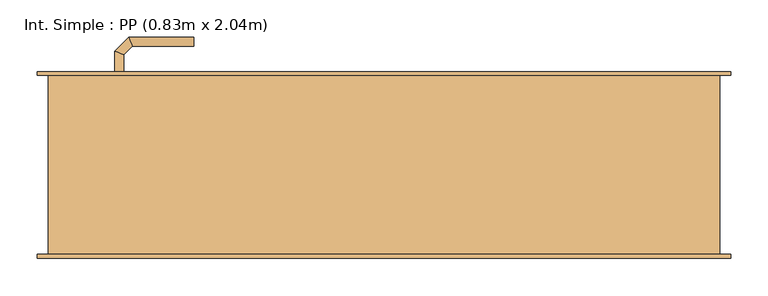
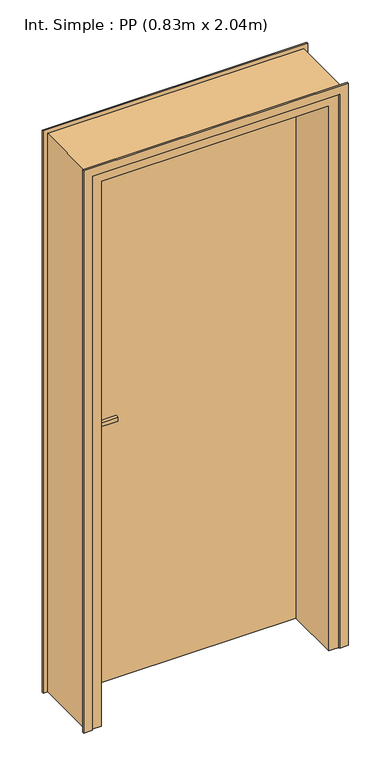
"""IFC4 building model written with IfcOpenShell, lengths in millimetres: door geometry, Int. Simple : PP (0.83m x 2.04m)."""

import ifcopenshell
import ifcopenshell.guid

model = None  # the IFC model being written
_history = None  # IfcOwnerHistory: only IFC2X3 demands one
_inside = {}  # id of a spatial element -> (the spatial element, [elements in it])
_under = {}  # id of a project, library or spatial element -> (it, [spatial elements below it])
_declared = {}  # id of a project -> (the project, [libraries it declares])
_typed = {}  # id of a type object -> (the type object, [elements of that type])
_made_of = {}  # id of a material, layer set ... -> (it, [elements and type objects made of it])


def new_model(schema):
    """Start an empty IFC model of exactly this schema.

    Asked for "IFC4X3", IfcOpenShell would pick the latest addendum, in which some entities
    have other attributes; the version numbers below select the first issue.
    IFC2X3 requires an IfcOwnerHistory on every rooted entity: one is made here for all.
    """
    global model, _history
    if schema == "IFC4X3":
        model = ifcopenshell.file(schema_version=(4, 3, 0, 0))
    else:
        model = ifcopenshell.file(schema=schema)
    _inside.clear()
    _under.clear()
    _declared.clear()
    _typed.clear()
    _made_of.clear()
    _history = None
    if model.schema == "IFC2X3":
        org = make("IfcOrganization", Name="unknown")
        user = make(
            "IfcPersonAndOrganization",
            ThePerson=make("IfcPerson", FamilyName="unknown"),
            TheOrganization=org,
        )
        app = make(
            "IfcApplication",
            ApplicationDeveloper=org,
            Version="unknown",
            ApplicationFullName="unknown",
            ApplicationIdentifier="unknown",
        )
        _history = make(
            "IfcOwnerHistory",
            OwningUser=user,
            OwningApplication=app,
            ChangeAction="ADDED",
            CreationDate=0,
        )
    return model


def make(cls, **values):
    """One entity of the class cls with the attributes given. An attribute that is None is left unset."""
    return model.create_entity(
        cls, **{name: value for name, value in values.items() if value is not None}
    )


def rooted(cls, **values):
    """An entity with a GlobalId (a new one), such as an element, a storey or a relation."""
    return make(cls, GlobalId=ifcopenshell.guid.new(), OwnerHistory=_history, **values)


def si_unit(unit_type, name, prefix=None):
    """IfcSIUnit, for example si_unit("LENGTHUNIT", "METRE", prefix="MILLI")."""
    return make("IfcSIUnit", UnitType=unit_type, Prefix=prefix, Name=name)


def assignment(units):
    """IfcUnitAssignment: the units of a project."""
    return None if units is None else make("IfcUnitAssignment", Units=units)


def point(xyz):
    """IfcCartesianPoint."""
    return None if xyz is None else make("IfcCartesianPoint", Coordinates=xyz)


def direction(xyz):
    """IfcDirection."""
    return None if xyz is None else make("IfcDirection", DirectionRatios=xyz)


def frame(location, z_axis=None, x_axis=None):
    """IfcAxis2Placement3D, a coordinate frame: its origin and axes. An axis left out is left unset."""
    return make(
        "IfcAxis2Placement3D",
        Location=point(location),
        Axis=direction(z_axis),
        RefDirection=direction(x_axis),
    )


def frame_2d(location, x_axis=None):
    """IfcAxis2Placement2D, a coordinate frame in the plane: its origin and x axis."""
    return make(
        "IfcAxis2Placement2D", Location=point(location), RefDirection=direction(x_axis)
    )


def origin():
    """The frame at (0, 0, 0) with its axes left unset."""
    return frame((0.0, 0.0, 0.0))


def origin_with_axes():
    """The frame at (0, 0, 0) with the z axis (0, 0, 1) and the x axis (1, 0, 0) written out."""
    return frame((0.0, 0.0, 0.0), z_axis=(0.0, 0.0, 1.0), x_axis=(1.0, 0.0, 0.0))


def place(relative_to, where):
    """IfcLocalPlacement: puts the frame where relative to a parent placement (None: the world)."""
    return make(
        "IfcLocalPlacement", PlacementRelTo=relative_to, RelativePlacement=where
    )


def context(
    kind, dimensions, precision=None, world=None, true_north=None, identifier=None
):
    """IfcGeometricRepresentationContext, for example the 3D "Model" context."""
    return make(
        "IfcGeometricRepresentationContext",
        ContextIdentifier=identifier,
        ContextType=kind,
        CoordinateSpaceDimension=dimensions,
        Precision=precision,
        WorldCoordinateSystem=world,
        TrueNorth=true_north,
    )


def project(units=None, contexts=None):
    """IfcProject with its units and contexts."""
    return rooted(
        "IfcProject",
        Name="project",
        RepresentationContexts=contexts,
        UnitsInContext=assignment(units),
    )


def spatial(cls, under=None, at=None, **own):
    """A site, building, storey or space (cls), placed at a placement, below another one or the project."""
    s = rooted(cls, ObjectPlacement=at, **own)
    if under is not None:
        _under.setdefault(under.id(), (under, []))[1].append(s)
    return s


def polyline(points):
    """IfcPolyline through the points."""
    return make("IfcPolyline", Points=[point(p) for p in points])


def circle_curve(where, radius):
    """IfcCircle in the frame where."""
    return make("IfcCircle", Position=where, Radius=radius)


def ellipse_curve(where, semi_axis1, semi_axis2):
    """IfcEllipse in the frame where."""
    return make(
        "IfcEllipse", Position=where, SemiAxis1=semi_axis1, SemiAxis2=semi_axis2
    )


def trimmed(basis, trim1, trim2, sense, master):
    """IfcTrimmedCurve: the piece of a basis curve between two trims."""
    return make(
        "IfcTrimmedCurve",
        BasisCurve=basis,
        Trim1=trim1,
        Trim2=trim2,
        SenseAgreement=sense,
        MasterRepresentation=master,
    )


def segment(curve, same_sense, transition):
    """IfcCompositeCurveSegment."""
    return make(
        "IfcCompositeCurveSegment",
        Transition=transition,
        SameSense=same_sense,
        ParentCurve=curve,
    )


def composite_curve(segments, self_intersect=None):
    """IfcCompositeCurve: segments joined end to end."""
    return make("IfcCompositeCurve", Segments=segments, SelfIntersect=self_intersect)


def outline(outer, holes=None, kind="AREA"):
    """IfcArbitraryClosedProfileDef: a profile drawn as a closed curve; with holes, ...WithVoids."""
    if holes is None:
        return make("IfcArbitraryClosedProfileDef", ProfileType=kind, OuterCurve=outer)
    return make(
        "IfcArbitraryProfileDefWithVoids",
        ProfileType=kind,
        OuterCurve=outer,
        InnerCurves=holes,
    )


def extrude(swept, where, along, depth):
    """IfcExtrudedAreaSolid: the profile swept, set in the frame where, extruded along a direction by depth."""
    return make(
        "IfcExtrudedAreaSolid",
        SweptArea=swept,
        Position=where,
        ExtrudedDirection=direction(along),
        Depth=depth,
    )


def faces_of(points, faces, orient=None, outer=None):
    """IfcFace entities. A face is a list of loops; a loop is a list of indices into points, from 0.

    orient and outer hold one flag for each loop. By default every Orientation is true, the
    first loop of a face is its IfcFaceOuterBound and the others are IfcFaceBound.
    """
    made = []
    for i, loops in enumerate(faces):
        bounds = []
        for j, loop in enumerate(loops):
            is_outer = j == 0 if outer is None else outer[i][j]
            bounds.append(
                make(
                    "IfcFaceOuterBound" if is_outer else "IfcFaceBound",
                    Bound=make("IfcPolyLoop", Polygon=[points[k] for k in loop]),
                    Orientation=True if orient is None else orient[i][j],
                )
            )
        made.append(make("IfcFace", Bounds=bounds))
    return made


def faceted_brep(points, faces, orient=None, outer=None, voids=None):
    """IfcFacetedBrep: a solid bounded by flat faces; with voids (closed shells), ...WithVoids."""
    shared = [point(p) for p in points]
    hull = make("IfcClosedShell", CfsFaces=faces_of(shared, faces, orient, outer))
    if voids is None:
        return make("IfcFacetedBrep", Outer=hull)
    return make(
        "IfcFacetedBrepWithVoids",
        Outer=hull,
        Voids=[
            make(cls, CfsFaces=faces_of(shared, fs, o, b)) for cls, fs, o, b in voids
        ],
    )


def shape(context_of_items, identifier, shape_type, items):
    """IfcShapeRepresentation: the items that make up one representation, for example the "Body"."""
    return make(
        "IfcShapeRepresentation",
        ContextOfItems=context_of_items,
        RepresentationIdentifier=identifier,
        RepresentationType=shape_type,
        Items=items,
    )


def source(mapping_origin, context_of_items, identifier, shape_type, items):
    """IfcRepresentationMap: a shape defined once, which mapped items show again and again."""
    return make(
        "IfcRepresentationMap",
        MappingOrigin=mapping_origin,
        MappedRepresentation=shape(context_of_items, identifier, shape_type, items),
    )


def transform(
    local_origin,
    x_axis=None,
    y_axis=None,
    z_axis=None,
    scale=None,
    scale2=None,
    scale3=None,
    uniform=True,
):
    """IfcCartesianTransformationOperator3D, or its non-uniform kind. x_axis, y_axis, z_axis: its Axis1, 2, 3."""
    if uniform:
        return make(
            "IfcCartesianTransformationOperator3D",
            Axis1=direction(x_axis),
            Axis2=direction(y_axis),
            LocalOrigin=point(local_origin),
            Scale=scale,
            Axis3=direction(z_axis),
        )
    return make(
        "IfcCartesianTransformationOperator3DnonUniform",
        Axis1=direction(x_axis),
        Axis2=direction(y_axis),
        LocalOrigin=point(local_origin),
        Scale=scale,
        Axis3=direction(z_axis),
        Scale2=scale2,
        Scale3=scale3,
    )


def mapped(mapping_source, mapping_target):
    """IfcMappedItem: shows the shape of a source again, moved by a transform."""
    return make(
        "IfcMappedItem", MappingSource=mapping_source, MappingTarget=mapping_target
    )


def made_of(thing, what):
    """Note that an element or type object is made of a material, layer set ...; save() writes the relation."""
    if what is not None:
        _made_of.setdefault(what.id(), (what, []))[1].append(thing)
    return thing


def element(
    cls,
    number,
    at=None,
    inside=None,
    cuts=None,
    type_object=None,
    material=None,
    context=None,
    identifier="Body",
    shape_type=None,
    held_by="IfcProductDefinitionShape",
    body=None,
    shapes=None,
    **own,
):
    """One element of the class cls, such as IfcWall. Its Tag is "e" and its number.

    at: its placement. inside: the storey or other place that contains it. cuts: it is an
    opening in that element (IfcRelVoidsElement). A single representation is given by context,
    identifier, shape_type and body (its items); several are given by shapes. held_by: the class
    of the entity that holds the representations. save() writes the other relations.
    """
    e = rooted(cls, Tag="e%d" % number, ObjectPlacement=at, **own)
    if body is not None:
        shapes = [shape(context, identifier, shape_type, body)]
    if shapes is not None:
        e.Representation = make(held_by, Representations=shapes)
    if inside is not None:
        _inside.setdefault(inside.id(), (inside, []))[1].append(e)
    if cuts is not None:
        rooted(
            "IfcRelVoidsElement", RelatingBuildingElement=cuts, RelatedOpeningElement=e
        )
    if type_object is not None:
        _typed.setdefault(type_object.id(), (type_object, []))[1].append(e)
    return made_of(e, material)


def aggregate(whole, parts):
    """IfcRelAggregates: a whole, such as a stair, and the parts it consists of."""
    return rooted("IfcRelAggregates", RelatingObject=whole, RelatedObjects=parts)


def save(model, path):
    """Write the relations noted so far, then the file.

    IfcRelAggregates (storeys below a building ...), IfcRelContainedInSpatialStructure (elements
    in a storey), IfcRelDefinesByType, IfcRelAssociatesMaterial and IfcRelDeclares: one each for
    every whole, place, type object, material and project.
    """
    for whole, parts in _under.values():
        aggregate(whole, parts)
    for where, things in _inside.values():
        rooted(
            "IfcRelContainedInSpatialStructure",
            RelatedElements=things,
            RelatingStructure=where,
        )
    for kind, things in _typed.values():
        rooted("IfcRelDefinesByType", RelatedObjects=things, RelatingType=kind)
    for what, things in _made_of.values():
        rooted("IfcRelAssociatesMaterial", RelatedObjects=things, RelatingMaterial=what)
    for by, libraries in _declared.values():
        rooted("IfcRelDeclares", RelatingContext=by, RelatedDefinitions=libraries)
    model.write(path)


def plane_surface(at):
    """IfcPlane: the flat surface through the origin of the frame at, square to its z axis."""
    return make("IfcPlane", Position=at)


def cylinder_surface(at, radius):
    """IfcCylindricalSurface: all points at the distance radius from the z axis of the frame at."""
    return make("IfcCylindricalSurface", Position=at, Radius=radius)


def advanced_brep(points, edges, surfaces, faces):
    """IfcAdvancedBrep: a solid bounded by faces that lie on surfaces and meet in shared edges.

    An edge is (start, end): straight between two places in points (the first is 0);
    or (start, end, curve); or (start, end, curve, False) where it runs against its curve.
    A face is (place in surfaces, loops), or (place, loops, False) where it looks against
    its surface's normal. A loop lists edges by number (the first is 1), with a minus sign
    where the edge is run from its end to its start. The first loop is the outer one.
    """
    corners = [point(p) for p in points]
    vertices = [make("IfcVertexPoint", VertexGeometry=c) for c in corners]
    made = []
    for start, end, *more in edges:
        made.append(
            make(
                "IfcEdgeCurve",
                EdgeStart=vertices[start],
                EdgeEnd=vertices[end],
                EdgeGeometry=more[0] if more else make("IfcPolyline", Points=[corners[start], corners[end]]),
                SameSense=more[1] if len(more) > 1 else True,
            )
        )
    hull = []
    for where, loops, *sense in faces:
        bounds = []
        for j, loop in enumerate(loops):
            ring = [make("IfcOrientedEdge", EdgeElement=made[abs(k) - 1], Orientation=k > 0) for k in loop]
            bounds.append(
                make(
                    "IfcFaceOuterBound" if j == 0 else "IfcFaceBound",
                    Bound=make("IfcEdgeLoop", EdgeList=ring),
                    Orientation=True,
                )
            )
        hull.append(make("IfcAdvancedFace", Bounds=bounds, FaceSurface=surfaces[where], SameSense=sense[0] if sense else True))
    return make("IfcAdvancedBrep", Outer=make("IfcClosedShell", CfsFaces=hull))


def int_simple_pp_0_83m_x_2_04m_8f699385(model_context):
    return source(origin(), model_context, "Body", "SolidModel", [
        extrude(outline(composite_curve([segment(trimmed(circle_curve(frame_2d((904.6410162, -390.0)), 40.0), [point((870.0, -410.0))], [point((870.0, -370.0))], False, "CARTESIAN"), True, "CONTINUOUS"), segment(polyline([(870.0, -370.0), (1080.0, -370.0)]), True, "CONTINUOUS"), segment(trimmed(circle_curve(frame_2d((1045.3589838, -390.0)), 40.0), [point((1080.0, -370.0))], [point((1080.0, -410.0))], False, "CARTESIAN"), True, "CONTINUOUS"), segment(polyline([(1080.0, -410.0), (870.0, -410.0)]), True, "CONTINUOUS")], self_intersect=False)), frame((0.0, 120.0, 0.0), z_axis=(0.0, 1.0, 0.0), x_axis=(0.0, 0.0, 1.0)), (0.0, 0.0, 1.0), 5.0),
        extrude(outline(composite_curve([segment(trimmed(circle_curve(frame_2d((1045.3589838, -390.0)), 40.0), [point((1080.0, -370.0))], [point((1080.0, -410.0))], False, "CARTESIAN"), True, "CONTINUOUS"), segment(polyline([(1080.0, -410.0), (870.0, -410.0)]), True, "CONTINUOUS"), segment(trimmed(circle_curve(frame_2d((904.6410162, -390.0)), 40.0), [point((870.0, -410.0))], [point((870.0, -370.0))], False, "CARTESIAN"), True, "CONTINUOUS"), segment(polyline([(870.0, -370.0), (1080.0, -370.0)]), True, "CONTINUOUS")], self_intersect=False)), frame((0.0, 75.0, 0.0), z_axis=(0.0, 1.0, 0.0), x_axis=(0.0, 0.0, 1.0)), (0.0, 0.0, 1.0), 5.0),
        advanced_brep(
        [(-396.0, 125.0, 1007.0), (-396.0, 125.0, 993.0), (-384.0, 125.0, 993.0), (-384.0, 125.0, 1007.0), (-384.0, 147.680388, 1007.0), (-396.0, 152.6509507, 1007.0), (-384.0, 147.680388, 993.0), (-396.0, 152.6509507, 993.0), (-372.6522273, 159.0281607, 1007.0), (-377.62279, 171.0281607, 1007.0), (-372.6522273, 159.0281607, 993.0), (-377.62279, 171.0281607, 993.0), (-289.9813594, 171.0281607, 1007.0), (-289.9813594, 159.0281607, 1007.0), (-289.9813594, 159.0281607, 993.0), (-289.9813594, 171.0281607, 993.0)],
        [
            (0, 1),
            (1, 2, circle_curve(frame((-390.0, 125.0, 1013.0457722), z_axis=(0.0, -1.0, 0.0), x_axis=(1.0, 0.0, 0.0)), 20.9244589)),
            (2, 3),
            (3, 0, circle_curve(frame((-390.0, 125.0, 986.9542278), z_axis=(0.0, -1.0, 0.0), x_axis=(1.0, 0.0, 0.0)), 20.9244589)),
            (3, 4),
            (4, 5, ellipse_curve(frame((-390.0, 150.1656693, 986.9542278), z_axis=(-0.3826834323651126, -0.9238795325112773, 0.0), x_axis=(0.9238795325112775, -0.38268343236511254, 0.0)), 22.6484711, 20.9244589)),
            (5, 0),
            (2, 6),
            (6, 4),
            (1, 7),
            (7, 6, ellipse_curve(frame((-390.0, 150.1656693, 1013.0457722), z_axis=(-0.3826834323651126, -0.9238795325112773, 0.0), x_axis=(0.9238795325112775, -0.38268343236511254, 0.0)), 22.6484711, 20.9244589)),
            (5, 7),
            (4, 8),
            (8, 9, ellipse_curve(frame((-375.1375086, 165.0281607, 986.9542278), z_axis=(-0.9238795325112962, -0.38268343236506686, 0.0), x_axis=(0.3826834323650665, -0.9238795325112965, 0.0)), 22.6484711, 20.9244589)),
            (9, 5),
            (6, 10),
            (10, 8),
            (7, 11),
            (11, 10, ellipse_curve(frame((-375.1375086, 165.0281607, 1013.0457722), z_axis=(-0.9238795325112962, -0.38268343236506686, 0.0), x_axis=(0.3826834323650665, -0.9238795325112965, 0.0)), 22.6484711, 20.9244589)),
            (9, 11),
            (12, 13, circle_curve(frame((-289.9813594, 165.0281607, 986.9542278), z_axis=(1.0, 0.0, 0.0), x_axis=(0.0, -1.0, 0.0)), 20.9244589)),
            (13, 14),
            (14, 15, circle_curve(frame((-289.9813594, 165.0281607, 1013.0457722), z_axis=(1.0, 0.0, 0.0), x_axis=(0.0, -1.0, 0.0)), 20.9244589)),
            (15, 12),
            (8, 13),
            (12, 9),
            (10, 14),
            (11, 15),
        ],
        [
            plane_surface(frame((-399.2195445, 125.0, 1000.0), z_axis=(0.0, -1.0, 0.0), x_axis=(0.0, 0.0, -1.0))),
            cylinder_surface(frame((-390.0, 125.0, 986.9542278), z_axis=(0.0, -1.0, 0.0), x_axis=(1.0, 0.0, 0.0)), 20.9244589),
            plane_surface(frame((-384.0, 125.0, 1007.0), z_axis=(1.0, 0.0, 0.0), x_axis=(0.0, 1.0, 0.0))),
            cylinder_surface(frame((-390.0, 125.0, 1013.0457722), z_axis=(0.0, -1.0, 0.0), x_axis=(1.0, 0.0, 0.0)), 20.9244589),
            plane_surface(frame((-396.0, 125.0, 993.0), z_axis=(-1.0, 0.0, 0.0), x_axis=(0.0, 1.0, 0.0))),
            cylinder_surface(frame((-390.0, 150.1656693, 986.9542278), z_axis=(-0.7071067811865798, -0.7071067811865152, 0.0), x_axis=(0.7071067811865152, -0.7071067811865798, 0.0)), 20.9244589),
            plane_surface(frame((-384.0, 147.680388, 1007.0), z_axis=(0.7071067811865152, -0.7071067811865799, 0.0), x_axis=(0.7071067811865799, 0.7071067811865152, 0.0))),
            cylinder_surface(frame((-390.0, 150.1656693, 1013.0457722), z_axis=(-0.7071067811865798, -0.7071067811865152, 0.0), x_axis=(0.7071067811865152, -0.7071067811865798, 0.0)), 20.9244589),
            plane_surface(frame((-396.0, 152.6509507, 993.0), z_axis=(-0.7071067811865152, 0.7071067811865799, 0.0), x_axis=(0.7071067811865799, 0.7071067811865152, 0.0))),
            plane_surface(frame((-289.9813594, 165.0281607, 990.7804555), z_axis=(1.0, 0.0, 0.0), x_axis=(0.0, -1.0, 0.0))),
            cylinder_surface(frame((-375.1375086, 165.0281607, 986.9542278), z_axis=(-1.0, 0.0, 0.0), x_axis=(0.0, -1.0, 0.0)), 20.9244589),
            plane_surface(frame((-372.6522273, 159.0281607, 1007.0), z_axis=(0.0, -1.0, 0.0), x_axis=(1.0, 0.0, 0.0))),
            cylinder_surface(frame((-375.1375086, 165.0281607, 1013.0457722), z_axis=(-1.0, 0.0, 0.0), x_axis=(0.0, -1.0, 0.0)), 20.9244589),
            plane_surface(frame((-377.62279, 171.0281607, 993.0), z_axis=(0.0, 1.0, 0.0), x_axis=(1.0, 0.0, 0.0))),
        ],
        [
            (0, [[1, 2, 3, 4]]),
            (1, [[5, 6, 7, -4]]),
            (2, [[8, 9, -5, -3]]),
            (3, [[10, 11, -8, -2]]),
            (4, [[-7, 12, -10, -1]]),
            (5, [[13, 14, 15, -6]]),
            (6, [[16, 17, -13, -9]]),
            (7, [[18, 19, -16, -11]]),
            (8, [[-15, 20, -18, -12]]),
            (9, [[21, 22, 23, 24]]),
            (10, [[25, -21, 26, -14]]),
            (11, [[27, -22, -25, -17]]),
            (12, [[28, -23, -27, -19]]),
            (13, [[-26, -24, -28, -20]]),
        ],
    ),
        advanced_brep(
        [(-384.0, 75.0, 993.0), (-396.0, 75.0, 993.0), (-396.0, 75.0, 1007.0), (-384.0, 75.0, 1007.0), (-384.0, 52.5147955, 1007.0), (-384.0, 52.5147955, 993.0), (-396.0, 47.5442327, 1007.0), (-396.0, 47.5442327, 993.0), (-372.5147186, 41.0295141, 1007.0), (-372.5147186, 41.0295141, 993.0), (-377.4852814, 29.0295141, 1007.0), (-377.4852814, 29.0295141, 993.0), (-289.9542163, 41.0295141, 993.0), (-289.9542163, 41.0295141, 1007.0), (-289.9542163, 29.0295141, 1007.0), (-289.9542163, 29.0295141, 993.0)],
        [
            (0, 1, circle_curve(frame((-390.0, 75.0, 1013.0457722), z_axis=(0.0, 1.0, 0.0), x_axis=(-1.0, 0.0, 0.0)), 20.9244589)),
            (1, 2),
            (2, 3, circle_curve(frame((-390.0, 75.0, 986.9542278), z_axis=(0.0, 1.0, 0.0), x_axis=(-1.0, 0.0, 0.0)), 20.9244589)),
            (3, 0),
            (3, 4),
            (4, 5),
            (5, 0),
            (2, 6),
            (6, 4, ellipse_curve(frame((-390.0, 50.0295141, 986.9542278), z_axis=(-0.3826834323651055, 0.9238795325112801, 0.0), x_axis=(0.9238795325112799, 0.3826834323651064, 0.0)), 22.6484711, 20.9244589)),
            (1, 7),
            (7, 6),
            (5, 7, ellipse_curve(frame((-390.0, 50.0295141, 1013.0457722), z_axis=(-0.3826834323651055, 0.9238795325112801, 0.0), x_axis=(0.9238795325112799, 0.3826834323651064, 0.0)), 22.6484711, 20.9244589)),
            (4, 8),
            (8, 9),
            (9, 5),
            (6, 10),
            (10, 8, ellipse_curve(frame((-375.0, 35.0295141, 986.9542278), z_axis=(-0.9238795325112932, 0.382683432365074, 0.0), x_axis=(0.3826834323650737, 0.9238795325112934, 0.0)), 22.6484711, 20.9244589)),
            (7, 11),
            (11, 10),
            (9, 11, ellipse_curve(frame((-375.0, 35.0295141, 1013.0457722), z_axis=(-0.9238795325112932, 0.382683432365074, 0.0), x_axis=(0.3826834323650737, 0.9238795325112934, 0.0)), 22.6484711, 20.9244589)),
            (12, 13),
            (13, 14, circle_curve(frame((-289.9542163, 35.0295141, 986.9542278), z_axis=(1.0, 0.0, 0.0), x_axis=(0.0, -1.0, 0.0)), 20.9244589)),
            (14, 15),
            (15, 12, circle_curve(frame((-289.9542163, 35.0295141, 1013.0457722), z_axis=(1.0, 0.0, 0.0), x_axis=(0.0, -1.0, 0.0)), 20.9244589)),
            (8, 13),
            (12, 9),
            (10, 14),
            (11, 15),
        ],
        [
            plane_surface(frame((-399.2195445, 75.0, 1000.0), z_axis=(0.0, 1.0, 0.0), x_axis=(0.0, 0.0, 1.0))),
            plane_surface(frame((-384.0, 75.0, 993.0), z_axis=(1.0, 0.0, 0.0), x_axis=(0.0, -1.0, 0.0))),
            cylinder_surface(frame((-390.0, 75.0, 986.9542278), z_axis=(0.0, 1.0, 0.0), x_axis=(-1.0, 0.0, 0.0)), 20.9244589),
            plane_surface(frame((-396.0, 75.0, 1007.0), z_axis=(-1.0, 0.0, 0.0), x_axis=(0.0, -1.0, 0.0))),
            cylinder_surface(frame((-390.0, 75.0, 1013.0457722), z_axis=(0.0, 1.0, 0.0), x_axis=(-1.0, 0.0, 0.0)), 20.9244589),
            plane_surface(frame((-384.0, 52.5147955, 993.0), z_axis=(0.7071067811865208, 0.7071067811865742, 0.0), x_axis=(0.7071067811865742, -0.7071067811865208, 0.0))),
            cylinder_surface(frame((-390.0, 50.0295141, 986.9542278), z_axis=(-0.7071067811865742, 0.7071067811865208, 0.0), x_axis=(-0.7071067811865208, -0.7071067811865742, 0.0)), 20.9244589),
            plane_surface(frame((-396.0, 47.5442327, 1007.0), z_axis=(-0.7071067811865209, -0.7071067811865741, 0.0), x_axis=(0.7071067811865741, -0.7071067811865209, 0.0))),
            cylinder_surface(frame((-390.0, 50.0295141, 1013.0457722), z_axis=(-0.7071067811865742, 0.7071067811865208, 0.0), x_axis=(-0.7071067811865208, -0.7071067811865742, 0.0)), 20.9244589),
            plane_surface(frame((-289.9542163, 35.0295141, 990.7804555), z_axis=(1.0, 0.0, 0.0), x_axis=(0.0, -1.0, 0.0))),
            plane_surface(frame((-372.5147186, 41.0295141, 993.0), z_axis=(0.0, 1.0, 0.0), x_axis=(1.0, 0.0, 0.0))),
            cylinder_surface(frame((-375.0, 35.0295141, 986.9542278), z_axis=(-1.0, 0.0, 0.0), x_axis=(0.0, -1.0, 0.0)), 20.9244589),
            plane_surface(frame((-377.4852814, 29.0295141, 1007.0), z_axis=(0.0, -1.0, 0.0), x_axis=(1.0, 0.0, 0.0))),
            cylinder_surface(frame((-375.0, 35.0295141, 1013.0457722), z_axis=(-1.0, 0.0, 0.0), x_axis=(0.0, -1.0, 0.0)), 20.9244589),
        ],
        [
            (0, [[1, 2, 3, 4]]),
            (1, [[5, 6, 7, -4]]),
            (2, [[8, 9, -5, -3]]),
            (3, [[10, 11, -8, -2]]),
            (4, [[-7, 12, -10, -1]]),
            (5, [[13, 14, 15, -6]]),
            (6, [[16, 17, -13, -9]]),
            (7, [[18, 19, -16, -11]]),
            (8, [[-15, 20, -18, -12]]),
            (9, [[21, 22, 23, 24]]),
            (10, [[25, -21, 26, -14]]),
            (11, [[27, -22, -25, -17]]),
            (12, [[28, -23, -27, -19]]),
            (13, [[-26, -24, -28, -20]]),
        ],
    ),
        extrude(outline(polyline([(-450.0, 80.0), (-450.0, 120.0), (380.0, 120.0), (380.0, 80.0), (-450.0, 80.0)])), origin_with_axes(), (0.0, 0.0, 1.0), 2040.0),
        faceted_brep([(-485.0, 120.0, 0.0), (-450.0, 120.0, 0.0), (-450.0, 80.0, 0.0), (-435.0, 80.0, 0.0), (-435.0, -120.0, 0.0), (-485.0, -120.0, 0.0), (-485.0, -120.0, 2075.0), (-485.0, 120.0, 2075.0), (-435.0, -120.0, 2025.0), (365.0, -120.0, 2025.0), (365.0, -120.0, 0.0), (415.0, -120.0, 0.0), (415.0, -120.0, 2075.0), (-435.0, 80.0, 2025.0), (-450.0, 80.0, 2040.0), (380.0, 80.0, 2040.0), (380.0, 80.0, 0.0), (365.0, 80.0, 0.0), (365.0, 80.0, 2025.0), (-450.0, 120.0, 2040.0), (415.0, 120.0, 2075.0), (415.0, 120.0, 0.0), (380.0, 120.0, 0.0), (380.0, 120.0, 2040.0)], [[[0, 1, 2, 3, 4, 5]], [[5, 6, 7, 0]], [[4, 8, 9, 10, 11, 12, 6, 5]], [[3, 13, 8, 4]], [[2, 14, 15, 16, 17, 18, 13, 3]], [[1, 19, 14, 2]], [[0, 7, 20, 21, 22, 23, 19, 1]], [[12, 11, 21, 20]], [[21, 11, 10, 17, 16, 22]], [[18, 17, 10, 9]], [[23, 22, 16, 15]], [[6, 12, 20, 7]], [[13, 18, 9, 8]], [[19, 23, 15, 14]]]),
        extrude(outline(polyline([(0.0, -470.0), (2060.0, -470.0), (2060.0, 400.0), (0.0, 400.0), (0.0, 430.0), (2090.0, 430.0), (2090.0, -500.0), (0.0, -500.0), (0.0, -470.0)])), frame((0.0, 120.0, 0.0), z_axis=(0.0, 1.0, 0.0), x_axis=(0.0, 0.0, 1.0)), (0.0, 0.0, 1.0), 5.0),
        extrude(outline(polyline([(0.0, -470.0), (2060.0, -470.0), (2060.0, 400.0), (0.0, 400.0), (0.0, 430.0), (2090.0, 430.0), (2090.0, -500.0), (0.0, -500.0), (0.0, -470.0)])), frame((0.0, -125.0, 0.0), z_axis=(0.0, 1.0, 0.0), x_axis=(0.0, 0.0, 1.0)), (0.0, 0.0, 1.0), 5.0),
    ])


if __name__ == "__main__":
    model = new_model("IFC4")
    model_context = context("Model", 3, world=origin())
    ifc_project = project(units=[si_unit("LENGTHUNIT", "METRE", prefix="MILLI")], contexts=[model_context])
    site = spatial("IfcSite", under=ifc_project)
    building = spatial("IfcBuilding", under=site)
    placement = place(None, origin())
    int_simple_pp_0_83m_x_2_04m_shape = int_simple_pp_0_83m_x_2_04m_8f699385(model_context)
    element("IfcDoor", 1, ObjectType="Int. Simple : PP (0.83m x 2.04m)", at=placement, inside=building, context=model_context, shape_type="MappedRepresentation", body=[
        mapped(int_simple_pp_0_83m_x_2_04m_shape, transform((0.0, 0.0, 0.0), x_axis=(1.0, 0.0, 0.0), y_axis=(0.0, 1.0, 0.0), z_axis=(0.0, 0.0, 1.0))),
    ])
    save(model, "model.ifc")
